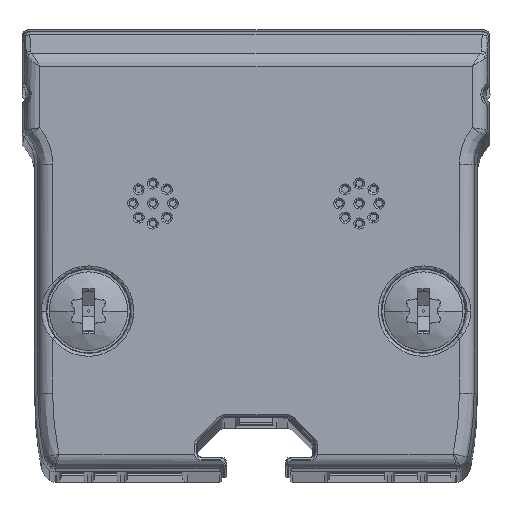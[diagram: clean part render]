
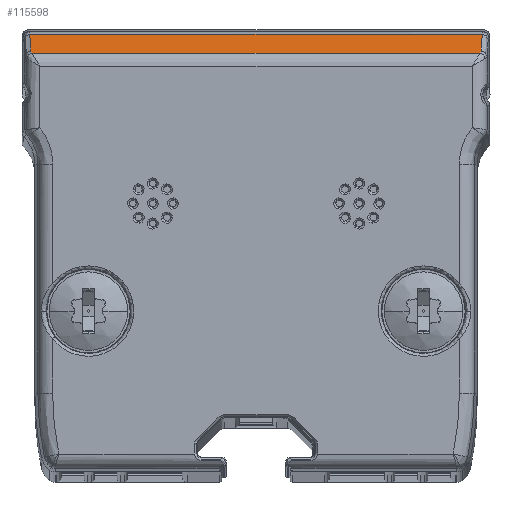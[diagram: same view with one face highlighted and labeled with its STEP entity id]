
A CAD part, top view. The second image highlights one B-rep face of the part: STEP entity #115598.
In plain terms, the highlighted planar face has unit normal (0, 0.891, 0.454).
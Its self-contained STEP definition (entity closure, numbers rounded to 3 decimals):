
#14198 = AXIS2_PLACEMENT_3D ( 'NONE', #183181, #28353, #184163 ) ;
#15770 = EDGE_CURVE ( 'NONE', #217878, #136692, #95796, .T. ) ;
#16659 = VECTOR ( 'NONE', #198654, 1000. ) ;
#17191 = DIRECTION ( 'NONE',  ( -1., 0., 0. ) ) ;
#20045 = VECTOR ( 'NONE', #180086, 1000. ) ;
#24258 = CARTESIAN_POINT ( 'NONE',  ( -23.029, 22.024, 256.585 ) ) ;
#25176 = VERTEX_POINT ( 'NONE', #174896 ) ;
#28353 = DIRECTION ( 'NONE',  ( 0., -0.891, -0.454 ) ) ;
#28513 = CARTESIAN_POINT ( 'NONE',  ( -22.911, 20.309, 259.954 ) ) ;
#46234 = VERTEX_POINT ( 'NONE', #120325 ) ;
#49135 = CARTESIAN_POINT ( 'NONE',  ( 22.911, 20.309, 259.954 ) ) ;
#53713 = EDGE_CURVE ( 'NONE', #190061, #25176, #86212, .T. ) ;
#71439 = CARTESIAN_POINT ( 'NONE',  ( 22.814, 20.117, 260.331 ) ) ;
#86212 = LINE ( 'NONE', #24258, #20045 ) ;
#95796 = B_SPLINE_CURVE_WITH_KNOTS ( 'NONE', 3,
 ( #49135, #182491, #204854, #71439 ),
 .UNSPECIFIED., .F., .F.,
 ( 4, 4 ),
 ( 0., 1. ),
 .UNSPECIFIED. ) ;
#107576 = ORIENTED_EDGE ( 'NONE', *, *, #53713, .F. ) ;
#107629 = CARTESIAN_POINT ( 'NONE',  ( -22.814, 20.117, 260.331 ) ) ;
#112381 = FACE_OUTER_BOUND ( 'NONE', #277936, .T. ) ;
#112770 = VECTOR ( 'NONE', #17191, 1000. ) ;
#113137 = CARTESIAN_POINT ( 'NONE',  ( 22.911, 20.309, 259.954 ) ) ;
#114393 = EDGE_CURVE ( 'NONE', #250368, #190061, #282558, .T. ) ;
#115598 = ADVANCED_FACE ( 'NONE', ( #112381 ), #272355, .F. ) ;
#120325 = CARTESIAN_POINT ( 'NONE',  ( 23.029, 22.024, 256.585 ) ) ;
#128187 = EDGE_CURVE ( 'NONE', #136692, #250368, #282997, .T. ) ;
#128555 = ORIENTED_EDGE ( 'NONE', *, *, #128187, .F. ) ;
#135110 = LINE ( 'NONE', #176241, #16659 ) ;
#136692 = VERTEX_POINT ( 'NONE', #198282 ) ;
#139480 = CARTESIAN_POINT ( 'NONE',  ( -22.814, 20.117, 260.331 ) ) ;
#146168 = EDGE_CURVE ( 'NONE', #46234, #217878, #268622, .T. ) ;
#150575 = CARTESIAN_POINT ( 'NONE',  ( -85.73, 20.117, 260.331 ) ) ;
#155003 = EDGE_CURVE ( 'NONE', #25176, #46234, #135110, .T. ) ;
#156733 = CARTESIAN_POINT ( 'NONE',  ( 23.029, 22.024, 256.585 ) ) ;
#161855 = CARTESIAN_POINT ( 'NONE',  ( -22.907, 20.243, 260.084 ) ) ;
#168203 = CARTESIAN_POINT ( 'NONE',  ( -22.911, 20.309, 259.954 ) ) ;
#173863 = ORIENTED_EDGE ( 'NONE', *, *, #114393, .F. ) ;
#174896 = CARTESIAN_POINT ( 'NONE',  ( -23.029, 22.024, 256.585 ) ) ;
#176241 = CARTESIAN_POINT ( 'NONE',  ( 11.908, 22.024, 256.585 ) ) ;
#180086 = DIRECTION ( 'NONE',  ( -0.031, 0.453, -0.891 ) ) ;
#182491 = CARTESIAN_POINT ( 'NONE',  ( 22.907, 20.243, 260.084 ) ) ;
#183181 = CARTESIAN_POINT ( 'NONE',  ( 11.908, 21.1, 258.4 ) ) ;
#184163 = DIRECTION ( 'NONE',  ( 0., 0.454, -0.891 ) ) ;
#190061 = VERTEX_POINT ( 'NONE', #168203 ) ;
#198282 = CARTESIAN_POINT ( 'NONE',  ( 22.814, 20.117, 260.331 ) ) ;
#198654 = DIRECTION ( 'NONE',  ( 1., 0., 0. ) ) ;
#204854 = CARTESIAN_POINT ( 'NONE',  ( 22.874, 20.177, 260.213 ) ) ;
#209708 = VECTOR ( 'NONE', #227852, 1000. ) ;
#217878 = VERTEX_POINT ( 'NONE', #113137 ) ;
#227852 = DIRECTION ( 'NONE',  ( -0.031, -0.453, 0.891 ) ) ;
#229353 = ORIENTED_EDGE ( 'NONE', *, *, #155003, .F. ) ;
#243497 = ORIENTED_EDGE ( 'NONE', *, *, #15770, .F. ) ;
#250368 = VERTEX_POINT ( 'NONE', #107629 ) ;
#268622 = LINE ( 'NONE', #156733, #209708 ) ;
#272355 = PLANE ( 'NONE',  #14198 ) ;
#272523 = CARTESIAN_POINT ( 'NONE',  ( -22.874, 20.177, 260.213 ) ) ;
#274349 = ORIENTED_EDGE ( 'NONE', *, *, #146168, .F. ) ;
#277936 = EDGE_LOOP ( 'NONE', ( #274349, #229353, #107576, #173863, #128555, #243497 ) ) ;
#282558 = B_SPLINE_CURVE_WITH_KNOTS ( 'NONE', 3,
 ( #139480, #272523, #161855, #28513 ),
 .UNSPECIFIED., .F., .F.,
 ( 4, 4 ),
 ( 0., 1. ),
 .UNSPECIFIED. ) ;
#282997 = LINE ( 'NONE', #150575, #112770 ) ;
